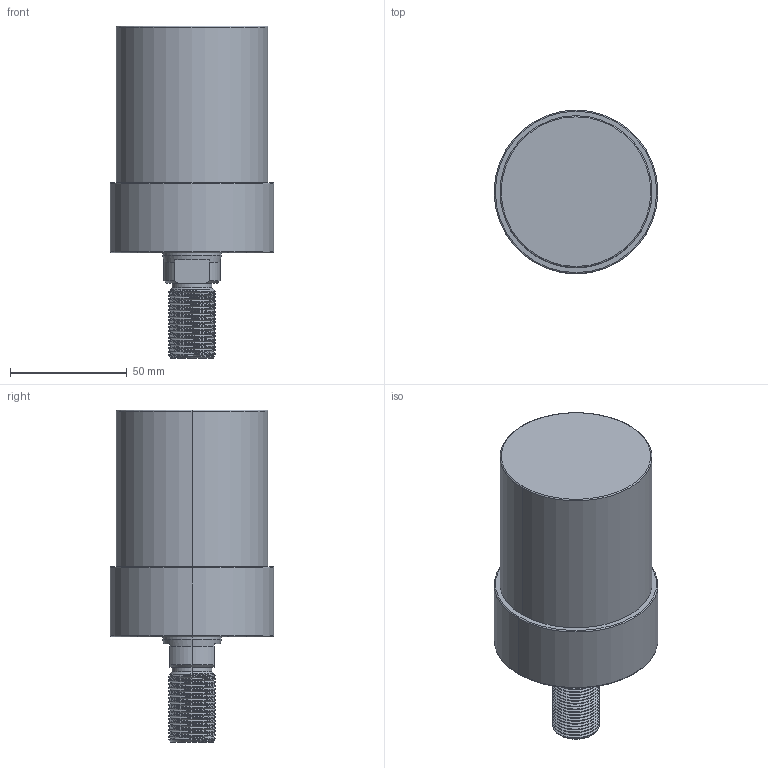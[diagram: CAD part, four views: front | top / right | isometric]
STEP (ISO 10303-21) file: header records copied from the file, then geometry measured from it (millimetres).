
FILE_DESCRIPTION (( 'STEP AP203' ), '1' );
FILE_NAME ('CLLU-065GT-050.STEP', '2020-01-16T01:15:26', ( '' ), ( '' ), 'SwSTEP 2.0', 'SolidWorks 2015', '' );
FILE_SCHEMA (( 'CONFIG_CONTROL_DESIGN' ));
Length unit declared in the file: millimetre
Products named in the file (1): CLLU-065GT-050
Bounding box: 70 x 70 x 142 mm (x, y, z)
Volume: 350742.7 mm3; surface area: 33170.8 mm2
Topology: 1 solids, 1 shells, 107 faces, 270 edges, 166 vertices
Faces by surface type: cylinder 61, cone 26, plane 12, torus 6, bspline 2
Entity records: 5334 total; most frequent: CARTESIAN_POINT 2933, ORIENTED_EDGE 524, DIRECTION 461, EDGE_CURVE 262, AXIS2_PLACEMENT_3D 184, VERTEX_POINT 166, EDGE_LOOP 116, FACE_OUTER_BOUND 107
